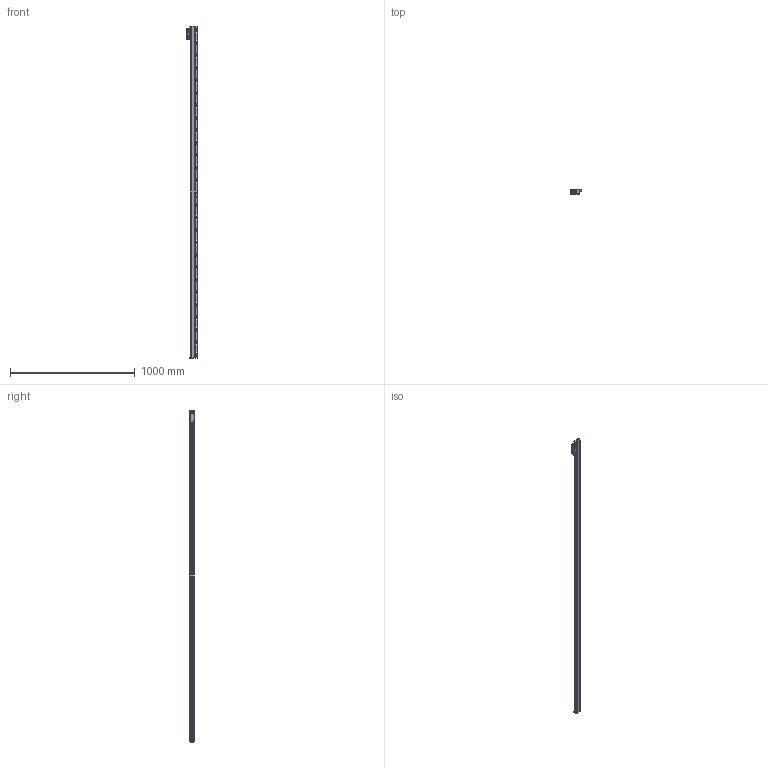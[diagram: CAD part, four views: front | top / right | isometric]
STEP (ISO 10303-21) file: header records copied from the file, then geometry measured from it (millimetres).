
FILE_DESCRIPTION(/* description */ (''),/* implementation_level */ '2;1');
FILE_NAME(/* name */ 'JC21A-2540-1.stp',/* time_stamp */ '2023-12-21T17:19:54+08:00',/* author */ (''),/* organization */ (''),/* preprocessor_version */ 'ST-DEVELOPER v14',/* originating_system */ 'SIEMENS PLM Software NX 8.0',/* authorisation */ '');
FILE_SCHEMA (('CONFIG_CONTROL_DESIGN'));
Length unit declared in the file: millimetre
Products named in the file (1): JC21A-2540-1
Bounding box: 87.5 x 37 x 2661 mm (x, y, z)
Volume: 4143009.7 mm3; surface area: 668735.5 mm2
Topology: 4 solids, 6 shells, 1415 faces, 4244 edges, 2827 vertices
Faces by surface type: plane 888, cylinder 495, cone 22, bspline 8, extrusion 2
Full cylindrical faces by diameter (mm): 2.5 x12, 3.3 x6, 3.7 x4, 4.2 x4, 5 x2, 6 x6, 6.6 x2, 6.8 x28, 7 x2, 13.2 x2
Entity records: 48831 total; most frequent: CARTESIAN_POINT 9947, ORIENTED_EDGE 8220, DIRECTION 8094, EDGE_CURVE 4110, VERTEX_POINT 2783, AXIS2_PLACEMENT_3D 2715, VECTOR 2664, LINE 2662
